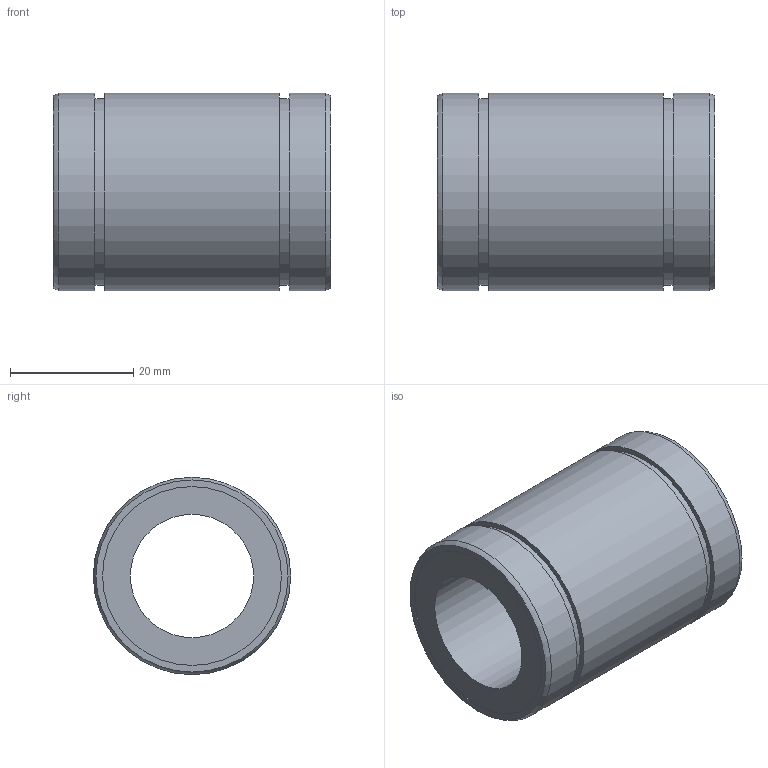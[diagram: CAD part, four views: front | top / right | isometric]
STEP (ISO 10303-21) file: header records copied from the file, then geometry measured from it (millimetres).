
FILE_DESCRIPTION((''),'2;1');
FILE_NAME('D:\製品 (図面)\カタログ用3D\リニアベアリング関連\STEP形式\LE\LE20.stp','2010-06-03T09:05:25',('Tsuchiya'),(''),'Autodesk Inventor 10','Autodesk Inventor 10','');
FILE_SCHEMA(('AUTOMOTIVE_DESIGN { 1 0 10303 214 1 1 1 1 }'));
Length unit declared in the file: millimetre
Products named in the file (1): LE20
Bounding box: 45 x 32 x 32 mm (x, y, z)
Volume: 21684.8 mm3; surface area: 8585.3 mm2
Topology: 1 solids, 1 shells, 18 faces, 28 edges, 18 vertices
Faces by surface type: plane 8, cylinder 8, torus 2
Full cylindrical faces by diameter (mm): 20 x1, 29 x2, 30.3 x2, 32 x3
Entity records: 391 total; most frequent: DIRECTION 74, CARTESIAN_POINT 55, AXIS2_PLACEMENT_3D 37, ORIENTED_EDGE 36, EDGE_LOOP 36, VERTEX_POINT 18, CIRCLE 18, EDGE_CURVE 18
